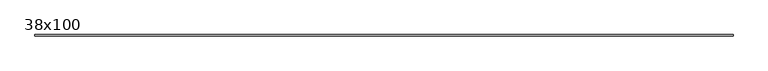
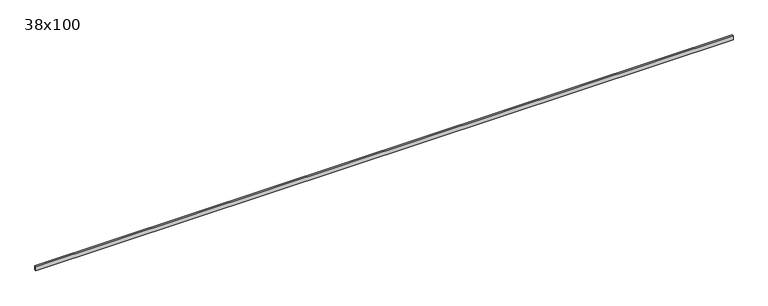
"""IFC4 building model written with IfcOpenShell, lengths in millimetres: beam geometry, Poutre - Bois de construction de dimensions courantes : 38x100."""

from ifc_helpers import new_model, si_unit, frame, origin, place, context, project, spatial, polyline, outline, extrude, source, transform, mapped, element, save


def beam_38x100_452b37c4(model_context):
    return source(origin(), model_context, "Body", "SweptSolid", [
        extrude(outline(polyline([(8405.5, 19.05), (8405.5, -19.05), (-8405.5, -19.05), (-8405.5, 19.05), (8405.5, 19.05)])), frame((0.0, 0.0, -50.0), z_axis=(0.0, 0.0, 1.0), x_axis=(1.0, 0.0, 0.0)), (0.0, 0.0, 1.0), 100.0),
    ])


if __name__ == "__main__":
    model = new_model("IFC4")
    model_context = context("Model", 3, world=origin())
    ifc_project = project(units=[si_unit("LENGTHUNIT", "METRE", prefix="MILLI")], contexts=[model_context])
    site = spatial("IfcSite", under=ifc_project)
    building = spatial("IfcBuilding", under=site)
    placement = place(None, origin())
    beam_38x100_shape = beam_38x100_452b37c4(model_context)
    element("IfcBeam", 1, ObjectType="Poutre - Bois de construction de dimensions courantes : 38x100", at=placement, inside=building, context=model_context, shape_type="MappedRepresentation", body=[
        mapped(beam_38x100_shape, transform((0.0, 0.0, 0.0), x_axis=(1.0, 0.0, 0.0), y_axis=(0.0, 1.0, 0.0), z_axis=(0.0, 0.0, 1.0))),
    ])
    save(model, "model.ifc")
